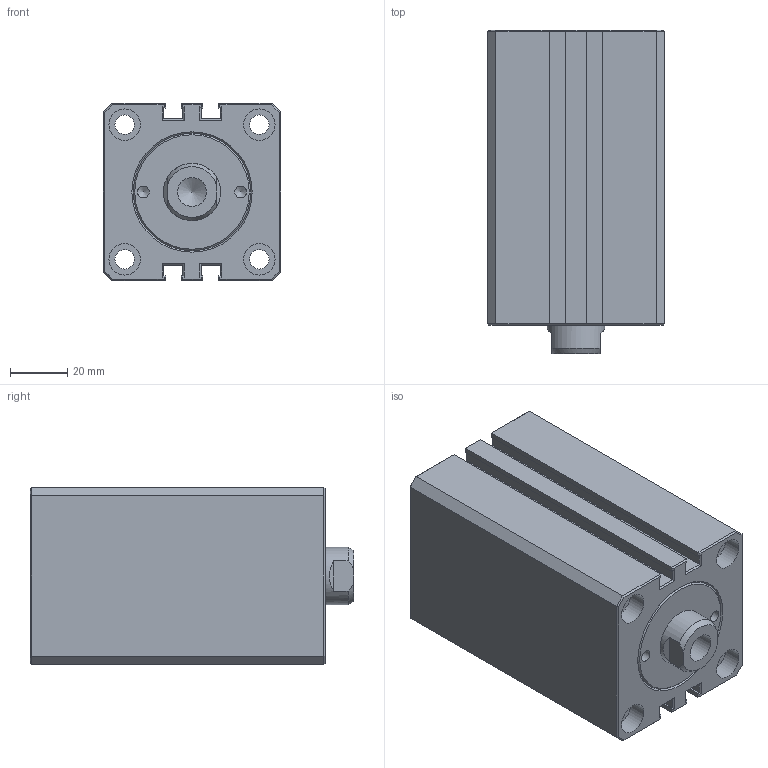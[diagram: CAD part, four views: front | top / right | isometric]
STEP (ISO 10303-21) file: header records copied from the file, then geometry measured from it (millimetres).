
FILE_DESCRIPTION(/* description */ ('Unknown'),/* implementation_level */ '2;1');
FILE_NAME(/* name */ 'HTM140-SD32X30N',/* time_stamp */ '2022-09-01T01:28:13+08:00',/* author */ ('Unknown'),/* organization */ ('Unknown'),/* preprocessor_version */ 'ST-DEVELOPER v16.7',/* originating_system */ 'DEX',/* authorisation */ $);
FILE_SCHEMA (('AUTOMOTIVE_DESIGN {1 0 10303 214 3 1 1}'));
Length unit declared in the file: millimetre
Products named in the file (1): HTM140-SD32X30N
Bounding box: 62 x 113 x 62 mm (x, y, z)
Volume: 359814.3 mm3; surface area: 49056.3 mm2
Topology: 1 solids, 1 shells, 187 faces, 430 edges, 259 vertices
Faces by surface type: plane 140, cylinder 19, cone 16, bspline 12
Full cylindrical faces by diameter (mm): 4.1 x2, 6 x1, 6.8 x4, 10.106 x1, 11 x8, 12.301 x2, 20 x1
Entity records: 6351 total; most frequent: CARTESIAN_POINT 1059, ORIENTED_EDGE 778, DIRECTION 768, EDGE_CURVE 389, LINE 294, VECTOR 294, VERTEX_POINT 248, FACE_BOUND 239
